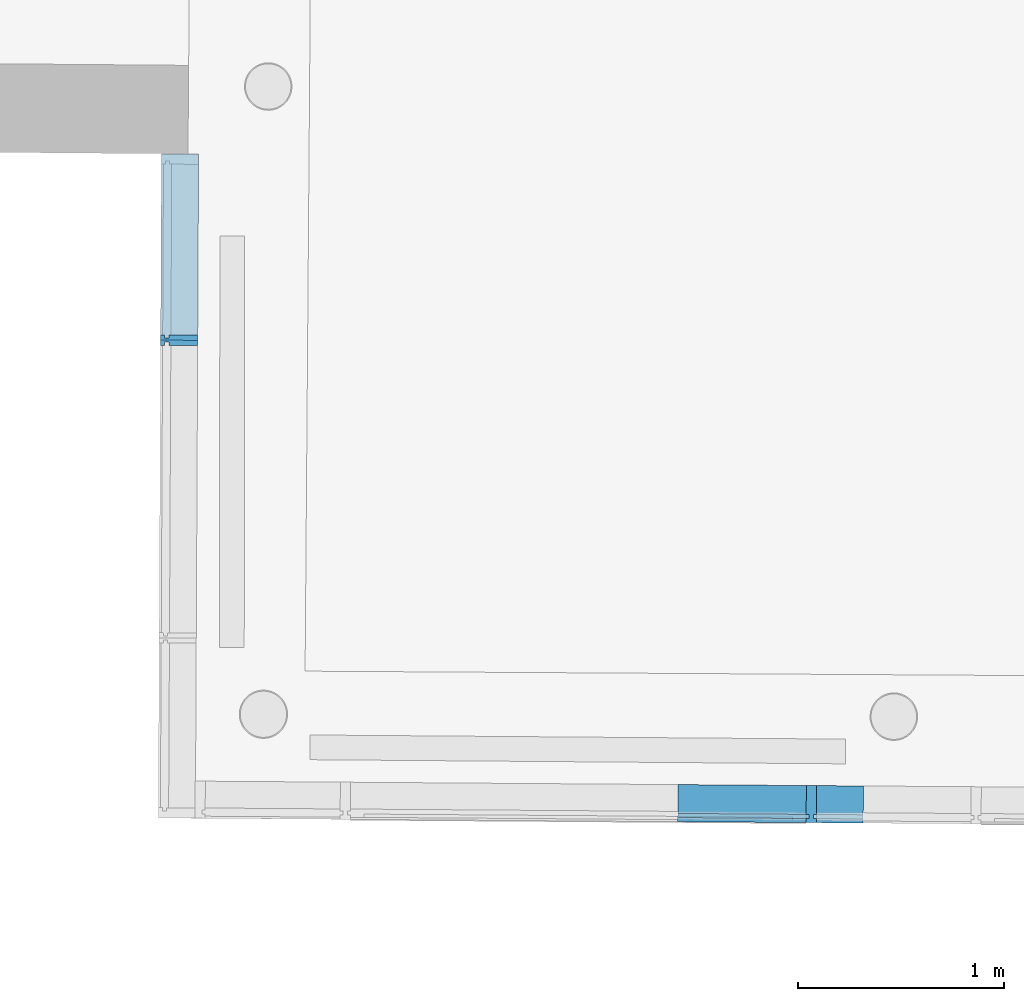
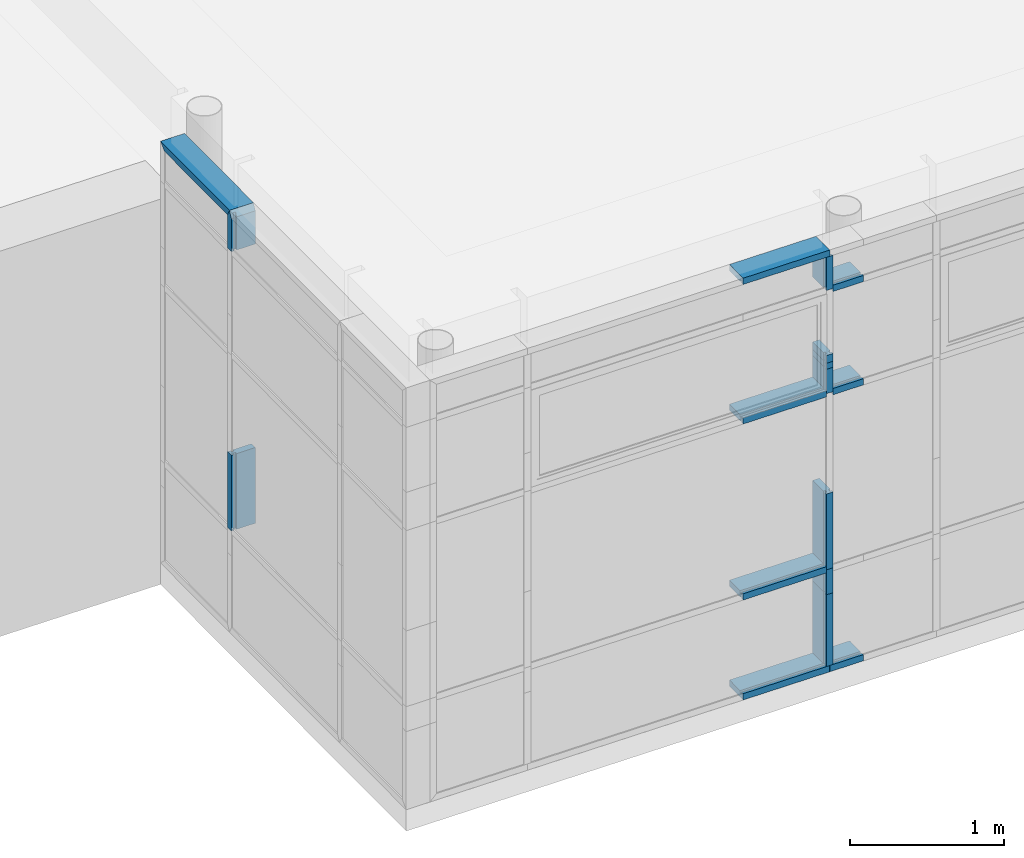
# One storey, part 171 of 196: 17 building element parts, 2 elements without a shape of their own.
"""IFC2X3 building model written with IfcOpenShell, lengths in metres."""

from ifc_helpers import new_model, entity, si_unit, converted_unit, derived_unit, money_unit, direction, frame, origin_with_axes, place, context, subcontext, project, spatial, faceted_brep, material, type_object, element, aggregate, save


model = new_model("IFC2X3")

# Units and contexts
model_context = context("Model", 3, precision=1e-05, world=origin_with_axes(), true_north=direction((0.0, 1.0)))
body_context = subcontext(model_context, "Body", "Model", "MODEL_VIEW")
ifc_project = project(units=[si_unit("LENGTHUNIT", "METRE"), si_unit("AREAUNIT", "SQUARE_METRE"), si_unit("VOLUMEUNIT", "CUBIC_METRE"), converted_unit("PLANEANGLEUNIT", "DEGREE", entity("IfcPlaneAngleMeasure", 0.0174532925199), si_unit("PLANEANGLEUNIT", "RADIAN"), dimensions=[0, 0, 0, 0, 0, 0, 0]), money_unit("EUR"), converted_unit("TIMEUNIT", "Year", entity("IfcTimeMeasure", 31556926.0), si_unit("TIMEUNIT", "SECOND"), dimensions=[0, 0, 1, 0, 0, 0, 0]), si_unit("MASSUNIT", "GRAM", prefix="KILO"), si_unit("THERMODYNAMICTEMPERATUREUNIT", "DEGREE_CELSIUS"), si_unit("LUMINOUSINTENSITYUNIT", "LUMEN"), si_unit("ENERGYUNIT", "JOULE", prefix="MEGA"), derived_unit("THERMALCONDUCTANCEUNIT", [(si_unit("POWERUNIT", "WATT"), 1), (si_unit("LENGTHUNIT", "METRE"), -1), (si_unit("THERMODYNAMICTEMPERATUREUNIT", "KELVIN"), -1)]), derived_unit("SPECIFICHEATCAPACITYUNIT", [(si_unit("ENERGYUNIT", "JOULE"), 1), (si_unit("MASSUNIT", "GRAM", prefix="KILO"), -1), (si_unit("THERMODYNAMICTEMPERATUREUNIT", "KELVIN"), -1)]), derived_unit("MASSDENSITYUNIT", [(si_unit("MASSUNIT", "GRAM", prefix="KILO"), 1), (si_unit("VOLUMEUNIT", "CUBIC_METRE"), -1)])], contexts=[model_context])

# Site, building, storey
site_placement = place(None, origin_with_axes())
site = spatial("IfcSite", under=ifc_project, at=site_placement, Name="Gelände", CompositionType="ELEMENT")
building_placement = place(site_placement, origin_with_axes())
building = spatial("IfcBuilding", under=site, at=building_placement, Name="Gebäude", CompositionType="ELEMENT")
storey_placement = place(building_placement, frame((0.0, 0.0, -3.0), z_axis=(0.0, 0.0, 1.0), x_axis=(1.0, 0.0, 0.0)))
storey = spatial("IfcBuildingStorey", under=building, at=storey_placement, Name="KELLERGESCHOSS", CompositionType="ELEMENT", Elevation=-3.0)

# Proxy, building element parts
building_element_proxy_type = type_object("IfcBuildingElementProxyType", Name="Fassadentyp", PredefinedType="NOTDEFINED")
proxy_1_placement = place(storey_placement, frame((2.54090824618, 35.7894672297, 0.610000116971), z_axis=(0.0, 0.0, 1.0), x_axis=(1.0, 0.0, 0.0)))
proxy_1 = element("IfcBuildingElementProxy", 1, at=proxy_1_placement, inside=storey, type_object=building_element_proxy_type, Name="Fassade-002")
ifc_material = material(Name="53_Metall, Aluminium")
building_element_part_1_placement = place(proxy_1_placement, origin_with_axes())
building_element_part_1 = element("IfcBuildingElementPart", 2, at=building_element_part_1_placement, material=ifc_material, Name="53_Metall, Aluminium", context=body_context, shape_type="Brep", body=[
    faceted_brep([(-0.110643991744, 0.0108020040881, 2.20648768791), (-0.110643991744, 0.0108020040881, 2.19148768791), (-0.109629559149, 0.150798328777, 2.19148768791), (-0.109629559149, 0.150798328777, 2.24148768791), (-0.110643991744, 0.0108020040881, 2.24148768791), (-0.110643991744, 0.0108020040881, 2.22648768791), (-0.110788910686, -0.00919747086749, 2.22648768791), (-0.110788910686, -0.00919747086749, 2.24148768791), (-0.110933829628, -0.0291969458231, 2.24148768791), (-0.110933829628, -0.0291969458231, 2.19148768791), (-0.110788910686, -0.00919747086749, 2.19148768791), (-0.110788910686, -0.00919747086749, 2.20648768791), (-0.337586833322, 0.0124464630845, 2.20648768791), (-0.337586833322, 0.0124464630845, 2.19148768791), (-0.336572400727, 0.152442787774, 2.19148768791), (-0.336572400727, 0.152442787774, 2.24148768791), (-0.337586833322, 0.0124464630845, 2.24148768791), (-0.337586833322, 0.0124464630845, 2.22648768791), (-0.337731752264, -0.00755301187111, 2.22648768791), (-0.337731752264, -0.00755301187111, 2.24148768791), (-0.337876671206, -0.0275524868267, 2.24148768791), (-0.337876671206, -0.0275524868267, 2.19148768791), (-0.337731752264, -0.00755301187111, 2.19148768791), (-0.337731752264, -0.00755301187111, 2.20648768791)], [[[0, 1, 2, 3, 4, 5, 6, 7, 8, 9, 10, 11]], [[1, 0, 12, 13]], [[1, 13, 14, 2]], [[2, 14, 15, 3]], [[4, 3, 15, 16]], [[4, 16, 17, 5]], [[5, 17, 18, 6]], [[7, 6, 18, 19]], [[19, 20, 8, 7]], [[8, 20, 21, 9]], [[22, 10, 9, 21]], [[11, 10, 22, 23]], [[0, 11, 23, 12]], [[23, 22, 21, 20, 19, 18, 17, 16, 15, 14, 13, 12]]]),
])
building_element_part_2_placement = place(proxy_1_placement, origin_with_axes())
building_element_part_2 = element("IfcBuildingElementPart", 3, at=building_element_part_2_placement, material=ifc_material, Name="53_Metall, Aluminium", context=body_context, shape_type="Brep", body=[
    faceted_brep([(-0.11064399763, 0.0108020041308, 0.03499984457), (-0.110788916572, -0.00919747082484, 0.03499984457), (-0.110788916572, -0.00919747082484, 0.04999984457), (-0.110933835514, -0.0291969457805, 0.04999984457), (-0.110933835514, -0.0291969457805, -1.55430020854e-07), (-0.109629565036, 0.15079832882, -1.55430020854e-07), (-0.109629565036, 0.15079832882, 0.04999984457), (-0.11064399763, 0.0108020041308, 0.04999984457), (-0.362586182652, 0.0126276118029, 0.03499984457), (-0.362731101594, -0.00737186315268, 0.03499984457), (-0.362731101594, -0.00737186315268, 0.04999984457), (-0.362876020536, -0.0273713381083, 0.04999984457), (-0.362876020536, -0.0273713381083, -1.55430020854e-07), (-0.361571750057, 0.152623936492, -1.55430020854e-07), (-0.361571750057, 0.152623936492, 0.04999984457), (-0.362586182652, 0.0126276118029, 0.04999984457)], [[[0, 1, 2, 3, 4, 5, 6, 7]], [[1, 0, 8, 9]], [[10, 2, 1, 9]], [[2, 10, 11, 3]], [[12, 4, 3, 11]], [[13, 5, 4, 12]], [[14, 6, 5, 13]], [[15, 7, 6, 14]], [[0, 7, 15, 8]], [[8, 15, 14, 13, 12, 11, 10, 9]]]),
])
building_element_part_3_placement = place(proxy_1_placement, origin_with_axes())
building_element_part_3 = element("IfcBuildingElementPart", 4, at=building_element_part_3_placement, material=ifc_material, Name="53_Metall, Aluminium", context=body_context, shape_type="Brep", body=[
    faceted_brep([(-0.362586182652, 0.0126276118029, 0.03499984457), (-0.362731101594, -0.00737186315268, 0.03499984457), (-0.362731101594, -0.00737186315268, 0.04999984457), (-0.362876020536, -0.0273713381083, 0.04999984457), (-0.362876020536, -0.0273713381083, -1.55430020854e-07), (-0.361571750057, 0.152623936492, -1.55430020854e-07), (-0.361571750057, 0.152623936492, 0.04999984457), (-0.362586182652, 0.0126276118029, 0.04999984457), (-1.01062037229, 0.0173233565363, 0.03499984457), (-1.01076529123, -0.0026761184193, 0.03499984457), (-1.01076529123, -0.0026761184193, 0.04999984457), (-1.01091021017, -0.0226755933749, 0.04999984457), (-1.01091021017, -0.0226755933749, -1.55430020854e-07), (-1.0096059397, 0.157319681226, -1.55430020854e-07), (-1.0096059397, 0.157319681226, 0.04999984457), (-1.01062037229, 0.0173233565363, 0.04999984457)], [[[0, 1, 2, 3, 4, 5, 6, 7]], [[1, 0, 8, 9]], [[10, 2, 1, 9]], [[2, 10, 11, 3]], [[12, 4, 3, 11]], [[13, 5, 4, 12]], [[14, 6, 5, 13]], [[15, 7, 6, 14]], [[0, 7, 15, 8]], [[8, 15, 14, 13, 12, 11, 10, 9]]]),
])
building_element_part_4_placement = place(proxy_1_placement, origin_with_axes())
building_element_part_4 = element("IfcBuildingElementPart", 5, at=building_element_part_4_placement, material=ifc_material, Name="53_Metall, Aluminium", context=body_context, shape_type="Brep", body=[
    faceted_brep([(-0.352586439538, 0.0125551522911, 2.41016314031), (-0.337586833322, 0.0124464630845, 2.41016314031), (-0.336572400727, 0.152442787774, 2.41016314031), (-0.386571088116, 0.152805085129, 2.41016314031), (-0.387585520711, 0.0128087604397, 2.41016314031), (-0.372585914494, 0.0127000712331, 2.41016314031), (-0.372730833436, -0.00729940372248, 2.41016314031), (-0.387730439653, -0.00719071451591, 2.41016314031), (-0.387875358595, -0.0271901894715, 2.41016314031), (-0.337876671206, -0.0275524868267, 2.41016314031), (-0.337731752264, -0.00755301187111, 2.41016314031), (-0.35273135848, -0.00744432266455, 2.41016314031), (-0.352586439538, 0.0125551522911, 2.21648768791), (-0.337586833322, 0.0124464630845, 2.21648768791), (-0.336572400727, 0.152442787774, 2.21648768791), (-0.386571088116, 0.152805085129, 2.21648768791), (-0.387585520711, 0.0128087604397, 2.21648768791), (-0.372585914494, 0.0127000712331, 2.21648768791), (-0.372730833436, -0.00729940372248, 2.21648768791), (-0.387730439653, -0.00719071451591, 2.21648768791), (-0.387875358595, -0.0271901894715, 2.21648768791), (-0.337876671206, -0.0275524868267, 2.21648768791), (-0.337731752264, -0.00755301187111, 2.21648768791), (-0.35273135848, -0.00744432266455, 2.21648768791)], [[[0, 1, 2, 3, 4, 5, 6, 7, 8, 9, 10, 11]], [[1, 0, 12, 13]], [[1, 13, 14, 2]], [[3, 2, 14, 15]], [[4, 3, 15, 16]], [[4, 16, 17, 5]], [[5, 17, 18, 6]], [[7, 6, 18, 19]], [[19, 20, 8, 7]], [[9, 8, 20, 21]], [[22, 10, 9, 21]], [[11, 10, 22, 23]], [[0, 11, 23, 12]], [[23, 22, 21, 20, 19, 18, 17, 16, 15, 14, 13, 12]]]),
])
building_element_part_5_placement = place(proxy_1_placement, origin_with_axes())
building_element_part_5 = element("IfcBuildingElementPart", 6, at=building_element_part_5_placement, material=ifc_material, Name="53_Metall, Aluminium", context=body_context, shape_type="Brep", body=[
    faceted_brep([(-0.352586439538, 0.0125551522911, 2.4576432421), (-0.337586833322, 0.0124464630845, 2.4576432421), (-0.336572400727, 0.152442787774, 2.4576432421), (-0.386571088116, 0.152805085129, 2.4576432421), (-0.387585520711, 0.0128087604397, 2.4576432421), (-0.372585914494, 0.0127000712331, 2.4576432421), (-0.372730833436, -0.00729940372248, 2.4576432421), (-0.387730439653, -0.00719071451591, 2.4576432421), (-0.387875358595, -0.0271901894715, 2.4576432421), (-0.337876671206, -0.0275524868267, 2.4576432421), (-0.337731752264, -0.00755301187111, 2.4576432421), (-0.35273135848, -0.00744432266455, 2.4576432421), (-0.352586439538, 0.0125551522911, 2.41016314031), (-0.337586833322, 0.0124464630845, 2.41016314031), (-0.336572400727, 0.152442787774, 2.41016314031), (-0.386571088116, 0.152805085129, 2.41016314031), (-0.387585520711, 0.0128087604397, 2.41016314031), (-0.372585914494, 0.0127000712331, 2.41016314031), (-0.372730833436, -0.00729940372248, 2.41016314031), (-0.387730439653, -0.00719071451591, 2.41016314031), (-0.387875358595, -0.0271901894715, 2.41016314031), (-0.337876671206, -0.0275524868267, 2.41016314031), (-0.337731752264, -0.00755301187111, 2.41016314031), (-0.35273135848, -0.00744432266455, 2.41016314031)], [[[0, 1, 2, 3, 4, 5, 6, 7, 8, 9, 10, 11]], [[1, 0, 12, 13]], [[1, 13, 14, 2]], [[3, 2, 14, 15]], [[4, 3, 15, 16]], [[4, 16, 17, 5]], [[5, 17, 18, 6]], [[7, 6, 18, 19]], [[19, 20, 8, 7]], [[9, 8, 20, 21]], [[22, 10, 9, 21]], [[11, 10, 22, 23]], [[0, 11, 23, 12]], [[23, 22, 21, 20, 19, 18, 17, 16, 15, 14, 13, 12]]]),
])
building_element_part_6_placement = place(proxy_1_placement, origin_with_axes())
building_element_part_6 = element("IfcBuildingElementPart", 7, at=building_element_part_6_placement, material=ifc_material, Name="53_Metall, Aluminium", context=body_context, shape_type="Brep", body=[
    faceted_brep([(-0.352586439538, 0.0125551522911, 2.51999989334), (-0.337586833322, 0.0124464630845, 2.51999989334), (-0.336572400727, 0.152442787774, 2.51999989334), (-0.386571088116, 0.152805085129, 2.51999989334), (-0.387585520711, 0.0128087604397, 2.51999989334), (-0.372585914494, 0.0127000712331, 2.51999989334), (-0.372730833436, -0.00729940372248, 2.51999989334), (-0.387730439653, -0.00719071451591, 2.51999989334), (-0.387875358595, -0.0271901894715, 2.51999989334), (-0.337876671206, -0.0275524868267, 2.51999989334), (-0.337731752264, -0.00755301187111, 2.51999989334), (-0.35273135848, -0.00744432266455, 2.51999989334), (-0.352586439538, 0.0125551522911, 2.45764323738), (-0.337586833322, 0.0124464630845, 2.45764323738), (-0.336572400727, 0.152442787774, 2.45764323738), (-0.386571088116, 0.152805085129, 2.45764323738), (-0.387585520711, 0.0128087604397, 2.45764323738), (-0.372585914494, 0.0127000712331, 2.45764323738), (-0.372730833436, -0.00729940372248, 2.45764323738), (-0.387730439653, -0.00719071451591, 2.45764323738), (-0.387875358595, -0.0271901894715, 2.45764323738), (-0.337876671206, -0.0275524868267, 2.45764323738), (-0.337731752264, -0.00755301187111, 2.45764323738), (-0.35273135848, -0.00744432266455, 2.45764323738)], [[[0, 1, 2, 3, 4, 5, 6, 7, 8, 9, 10, 11]], [[1, 0, 12, 13]], [[1, 13, 14, 2]], [[3, 2, 14, 15]], [[4, 3, 15, 16]], [[4, 16, 17, 5]], [[5, 17, 18, 6]], [[7, 6, 18, 19]], [[19, 20, 8, 7]], [[9, 8, 20, 21]], [[22, 10, 9, 21]], [[11, 10, 22, 23]], [[0, 11, 23, 12]], [[23, 22, 21, 20, 19, 18, 17, 16, 15, 14, 13, 12]]]),
])
building_element_part_7_placement = place(proxy_1_placement, origin_with_axes())
building_element_part_7 = element("IfcBuildingElementPart", 8, at=building_element_part_7_placement, material=ifc_material, Name="53_Metall, Aluminium", context=body_context, shape_type="Brep", body=[
    faceted_brep([(-0.352586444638, 0.012555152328, 3.2999999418), (-0.337586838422, 0.0124464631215, 3.2999999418), (-0.336572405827, 0.152442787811, 3.2999999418), (-0.386571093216, 0.152805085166, 3.2999999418), (-0.387585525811, 0.0128087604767, 3.2999999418), (-0.372585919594, 0.0127000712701, 3.2999999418), (-0.372730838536, -0.00729940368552, 3.2999999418), (-0.387730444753, -0.00719071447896, 3.2999999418), (-0.387875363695, -0.0271901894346, 3.2999999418), (-0.337876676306, -0.0275524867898, 3.2999999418), (-0.337731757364, -0.00755301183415, 3.2999999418), (-0.35273136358, -0.0074443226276, 3.2999999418), (-0.352586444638, 0.012555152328, 3.03649576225), (-0.337586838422, 0.0124464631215, 3.03649576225), (-0.336572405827, 0.152442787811, 3.03649576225), (-0.386571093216, 0.152805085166, 3.03649576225), (-0.387585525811, 0.0128087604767, 3.03649576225), (-0.372585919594, 0.0127000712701, 3.03649576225), (-0.372730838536, -0.00729940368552, 3.03649576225), (-0.387730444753, -0.00719071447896, 3.03649576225), (-0.387875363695, -0.0271901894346, 3.03649576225), (-0.337876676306, -0.0275524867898, 3.03649576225), (-0.337731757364, -0.00755301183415, 3.03649576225), (-0.35273136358, -0.0074443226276, 3.03649576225)], [[[0, 1, 2, 3, 4, 5, 6, 7, 8, 9, 10, 11]], [[1, 0, 12, 13]], [[1, 13, 14, 2]], [[3, 2, 14, 15]], [[4, 3, 15, 16]], [[4, 16, 17, 5]], [[5, 17, 18, 6]], [[7, 6, 18, 19]], [[19, 20, 8, 7]], [[9, 8, 20, 21]], [[22, 10, 9, 21]], [[11, 10, 22, 23]], [[0, 11, 23, 12]], [[23, 22, 21, 20, 19, 18, 17, 16, 15, 14, 13, 12]]]),
])
building_element_part_8_placement = place(proxy_1_placement, origin_with_axes())
building_element_part_8 = element("IfcBuildingElementPart", 9, at=building_element_part_8_placement, material=ifc_material, Name="53_Metall, Aluminium", context=body_context, shape_type="Brep", body=[
    faceted_brep([(-0.352586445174, 0.0125551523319, 0.619999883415), (-0.337586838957, 0.0124464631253, 0.619999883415), (-0.336572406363, 0.152442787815, 0.619999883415), (-0.386571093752, 0.15280508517, 0.619999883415), (-0.387585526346, 0.0128087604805, 0.619999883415), (-0.37258592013, 0.012700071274, 0.619999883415), (-0.372730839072, -0.00729940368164, 0.619999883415), (-0.387730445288, -0.00719071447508, 0.619999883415), (-0.38787536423, -0.0271901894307, 0.619999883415), (-0.337876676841, -0.0275524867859, 0.619999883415), (-0.337731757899, -0.00755301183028, 0.619999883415), (-0.352731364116, -0.00744432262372, 0.619999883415), (-0.352586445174, 0.0125551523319, 0.04999984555), (-0.337586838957, 0.0124464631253, 0.04999984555), (-0.336572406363, 0.152442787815, 0.049999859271), (-0.386571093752, 0.15280508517, 0.049999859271), (-0.387585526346, 0.0128087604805, 0.04999984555), (-0.37258592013, 0.012700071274, 0.04999984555), (-0.372730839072, -0.00729940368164, 0.0499998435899), (-0.387730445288, -0.00719071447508, 0.0499998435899), (-0.38787536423, -0.0271901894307, 0.0499998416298), (-0.337876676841, -0.0275524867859, 0.0499998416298), (-0.337731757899, -0.00755301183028, 0.0499998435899), (-0.352731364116, -0.00744432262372, 0.0499998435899)], [[[0, 1, 2, 3, 4, 5, 6, 7, 8, 9, 10, 11]], [[1, 0, 12, 13]], [[1, 13, 14, 2]], [[2, 14, 15, 3]], [[4, 3, 15, 16]], [[4, 16, 17, 5]], [[5, 17, 18, 6]], [[7, 6, 18, 19]], [[19, 20, 8, 7]], [[8, 20, 21, 9]], [[22, 10, 9, 21]], [[11, 10, 22, 23]], [[0, 11, 23, 12]], [[23, 22, 21, 20, 19, 18, 17, 16, 15, 14, 13, 12]]]),
])
building_element_part_9_placement = place(proxy_1_placement, origin_with_axes())
building_element_part_9 = element("IfcBuildingElementPart", 10, at=building_element_part_9_placement, material=ifc_material, Name="53_Metall, Aluminium", context=body_context, shape_type="Brep", body=[
    faceted_brep([(-0.110643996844, 0.0108020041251, 3.02649576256), (-0.110643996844, 0.0108020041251, 3.01149576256), (-0.109629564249, 0.150798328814, 3.01149576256), (-0.109629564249, 0.150798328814, 3.06149576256), (-0.110643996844, 0.0108020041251, 3.06149576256), (-0.110643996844, 0.0108020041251, 3.04649576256), (-0.110788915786, -0.00919747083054, 3.04649576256), (-0.110788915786, -0.00919747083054, 3.06149576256), (-0.110933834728, -0.0291969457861, 3.06149576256), (-0.110933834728, -0.0291969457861, 3.01149576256), (-0.110788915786, -0.00919747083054, 3.01149576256), (-0.110788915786, -0.00919747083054, 3.02649576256), (-0.337586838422, 0.0124464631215, 3.02649576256), (-0.337586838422, 0.0124464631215, 3.01149576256), (-0.336572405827, 0.152442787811, 3.01149576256), (-0.336572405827, 0.152442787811, 3.06149576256), (-0.337586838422, 0.0124464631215, 3.06149576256), (-0.337586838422, 0.0124464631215, 3.04649576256), (-0.337731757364, -0.00755301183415, 3.04649576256), (-0.337731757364, -0.00755301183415, 3.06149576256), (-0.337876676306, -0.0275524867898, 3.06149576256), (-0.337876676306, -0.0275524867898, 3.01149576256), (-0.337731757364, -0.00755301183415, 3.01149576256), (-0.337731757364, -0.00755301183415, 3.02649576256)], [[[0, 1, 2, 3, 4, 5, 6, 7, 8, 9, 10, 11]], [[1, 0, 12, 13]], [[1, 13, 14, 2]], [[2, 14, 15, 3]], [[4, 3, 15, 16]], [[4, 16, 17, 5]], [[5, 17, 18, 6]], [[7, 6, 18, 19]], [[19, 20, 8, 7]], [[8, 20, 21, 9]], [[22, 10, 9, 21]], [[11, 10, 22, 23]], [[0, 11, 23, 12]], [[23, 22, 21, 20, 19, 18, 17, 16, 15, 14, 13, 12]]]),
])
building_element_part_10_placement = place(proxy_1_placement, origin_with_axes())
building_element_part_10 = element("IfcBuildingElementPart", 11, at=building_element_part_10_placement, material=ifc_material, Name="53_Metall, Aluminium", context=body_context, shape_type="Brep", body=[
    faceted_brep([(-0.362586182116, 0.0126276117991, 3.31499994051), (-0.362586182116, 0.0126276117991, 3.29999994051), (-0.361571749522, 0.152623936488, 3.29999994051), (-0.361571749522, 0.152623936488, 3.34999994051), (-0.36287602, -0.0273713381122, 3.34999994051), (-0.36287602, -0.0273713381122, 3.29999994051), (-0.362731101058, -0.00737186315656, 3.29999994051), (-0.362731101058, -0.00737186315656, 3.31499994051), (-1.01062037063, 0.0173233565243, 3.31499994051), (-1.01062037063, 0.0173233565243, 3.29999994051), (-1.00960593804, 0.157319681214, 3.29999994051), (-1.00960593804, 0.157319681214, 3.34999994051), (-1.01091020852, -0.0226755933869, 3.34999994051), (-1.01091020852, -0.0226755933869, 3.29999994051), (-1.01076528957, -0.00267611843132, 3.29999994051), (-1.01076528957, -0.00267611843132, 3.31499994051)], [[[0, 1, 2, 3, 4, 5, 6, 7]], [[0, 8, 9, 1]], [[9, 10, 2, 1]], [[10, 11, 3, 2]], [[11, 12, 4, 3]], [[12, 13, 5, 4]], [[6, 5, 13, 14]], [[14, 15, 7, 6]], [[7, 15, 8, 0]], [[8, 15, 14, 13, 12, 11, 10, 9]]]),
])
building_element_part_11_placement = place(proxy_1_placement, origin_with_axes())
building_element_part_11 = element("IfcBuildingElementPart", 12, at=building_element_part_11_placement, material=ifc_material, Name="53_Metall, Aluminium", context=body_context, shape_type="Brep", body=[
    faceted_brep([(-0.352586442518, 0.0125551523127, 0.818463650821), (-0.337586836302, 0.0124464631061, 0.818463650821), (-0.336572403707, 0.152442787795, 0.818463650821), (-0.386571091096, 0.152805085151, 0.818463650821), (-0.387585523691, 0.0128087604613, 0.818463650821), (-0.372585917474, 0.0127000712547, 0.818463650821), (-0.372730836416, -0.00729940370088, 0.818463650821), (-0.387730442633, -0.00719071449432, 0.818463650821), (-0.387875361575, -0.0271901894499, 0.818463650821), (-0.337876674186, -0.0275524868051, 0.818463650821), (-0.337731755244, -0.00755301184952, 0.818463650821), (-0.35273136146, -0.00744432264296, 0.818463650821), (-0.352586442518, 0.0125551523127, 0.619999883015), (-0.337586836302, 0.0124464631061, 0.619999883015), (-0.336572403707, 0.152442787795, 0.619999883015), (-0.386571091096, 0.152805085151, 0.619999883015), (-0.387585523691, 0.0128087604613, 0.619999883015), (-0.372585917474, 0.0127000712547, 0.619999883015), (-0.372730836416, -0.00729940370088, 0.619999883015), (-0.387730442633, -0.00719071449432, 0.619999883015), (-0.387875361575, -0.0271901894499, 0.619999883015), (-0.337876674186, -0.0275524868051, 0.619999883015), (-0.337731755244, -0.00755301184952, 0.619999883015), (-0.35273136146, -0.00744432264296, 0.619999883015)], [[[0, 1, 2, 3, 4, 5, 6, 7, 8, 9, 10, 11]], [[1, 0, 12, 13]], [[1, 13, 14, 2]], [[3, 2, 14, 15]], [[4, 3, 15, 16]], [[4, 16, 17, 5]], [[5, 17, 18, 6]], [[7, 6, 18, 19]], [[19, 20, 8, 7]], [[9, 8, 20, 21]], [[22, 10, 9, 21]], [[11, 10, 22, 23]], [[0, 11, 23, 12]], [[23, 22, 21, 20, 19, 18, 17, 16, 15, 14, 13, 12]]]),
])
building_element_part_12_placement = place(proxy_1_placement, origin_with_axes())
building_element_part_12 = element("IfcBuildingElementPart", 13, at=building_element_part_12_placement, material=ifc_material, Name="53_Metall, Aluminium", context=body_context, shape_type="Brep", body=[
    faceted_brep([(-0.352586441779, 0.0125551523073, 1.41999988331), (-0.337586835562, 0.0124464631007, 1.41999988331), (-0.336572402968, 0.15244278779, 1.41999988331), (-0.386571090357, 0.152805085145, 1.41999988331), (-0.387585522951, 0.0128087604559, 1.41999988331), (-0.372585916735, 0.0127000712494, 1.41999988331), (-0.372730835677, -0.00729940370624, 1.41999988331), (-0.387730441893, -0.00719071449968, 1.41999988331), (-0.387875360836, -0.0271901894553, 1.41999988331), (-0.337876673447, -0.0275524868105, 1.41999988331), (-0.337731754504, -0.00755301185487, 1.41999988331), (-0.352731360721, -0.00744432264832, 1.41999988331), (-0.352586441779, 0.0125551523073, 0.818463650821), (-0.337586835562, 0.0124464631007, 0.818463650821), (-0.336572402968, 0.15244278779, 0.818463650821), (-0.386571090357, 0.152805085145, 0.818463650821), (-0.387585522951, 0.0128087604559, 0.818463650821), (-0.372585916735, 0.0127000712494, 0.818463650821), (-0.372730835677, -0.00729940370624, 0.818463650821), (-0.387730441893, -0.00719071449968, 0.818463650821), (-0.387875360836, -0.0271901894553, 0.818463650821), (-0.337876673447, -0.0275524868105, 0.818463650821), (-0.337731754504, -0.00755301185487, 0.818463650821), (-0.352731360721, -0.00744432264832, 0.818463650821)], [[[0, 1, 2, 3, 4, 5, 6, 7, 8, 9, 10, 11]], [[1, 0, 12, 13]], [[1, 13, 14, 2]], [[3, 2, 14, 15]], [[4, 3, 15, 16]], [[4, 16, 17, 5]], [[5, 17, 18, 6]], [[7, 6, 18, 19]], [[19, 20, 8, 7]], [[9, 8, 20, 21]], [[22, 10, 9, 21]], [[11, 10, 22, 23]], [[0, 11, 23, 12]], [[23, 22, 21, 20, 19, 18, 17, 16, 15, 14, 13, 12]]]),
])
building_element_part_13_placement = place(proxy_1_placement, origin_with_axes())
building_element_part_13 = element("IfcBuildingElementPart", 14, at=building_element_part_13_placement, material=ifc_material, Name="53_Metall, Aluminium", context=body_context, shape_type="Brep", body=[
    faceted_brep([(-0.387585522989, 0.0128087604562, 0.808463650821), (-0.387585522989, 0.0128087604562, 0.793463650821), (-0.386571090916, 0.152805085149, 0.793463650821), (-0.386571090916, 0.152805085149, 0.843463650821), (-0.387585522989, 0.0128087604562, 0.843463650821), (-0.387585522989, 0.0128087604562, 0.828463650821), (-0.387730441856, -0.00719071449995, 0.828463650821), (-0.387730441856, -0.00719071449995, 0.843463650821), (-0.387875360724, -0.0271901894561, 0.843463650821), (-0.387875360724, -0.0271901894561, 0.793463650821), (-0.387730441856, -0.00719071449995, 0.793463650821), (-0.387730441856, -0.00719071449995, 0.808463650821), (-1.0106203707, 0.0173233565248, 0.808463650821), (-1.0106203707, 0.0173233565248, 0.793463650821), (-1.00960593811, 0.157319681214, 0.793463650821), (-1.00960593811, 0.157319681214, 0.843463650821), (-1.0106203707, 0.0173233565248, 0.843463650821), (-1.0106203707, 0.0173233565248, 0.828463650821), (-1.01076528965, -0.00267611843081, 0.828463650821), (-1.01076528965, -0.00267611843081, 0.843463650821), (-1.01091020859, -0.0226755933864, 0.843463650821), (-1.01091020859, -0.0226755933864, 0.793463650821), (-1.01076528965, -0.00267611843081, 0.793463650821), (-1.01076528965, -0.00267611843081, 0.808463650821)], [[[0, 1, 2, 3, 4, 5, 6, 7, 8, 9, 10, 11]], [[1, 0, 12, 13]], [[1, 13, 14, 2]], [[3, 2, 14, 15]], [[4, 3, 15, 16]], [[4, 16, 17, 5]], [[5, 17, 18, 6]], [[7, 6, 18, 19]], [[19, 20, 8, 7]], [[9, 8, 20, 21]], [[22, 10, 9, 21]], [[11, 10, 22, 23]], [[0, 11, 23, 12]], [[23, 22, 21, 20, 19, 18, 17, 16, 15, 14, 13, 12]]]),
])
building_element_part_14_placement = place(proxy_1_placement, origin_with_axes())
building_element_part_14 = element("IfcBuildingElementPart", 15, at=building_element_part_14_placement, material=ifc_material, Name="53_Metall, Aluminium", context=body_context, shape_type="Brep", body=[
    faceted_brep([(-0.387585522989, 0.0128087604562, 2.20648768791), (-0.387585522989, 0.0128087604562, 2.19148768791), (-0.386571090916, 0.152805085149, 2.19148768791), (-0.386571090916, 0.152805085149, 2.24148768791), (-0.387585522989, 0.0128087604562, 2.24148768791), (-0.387585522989, 0.0128087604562, 2.22648768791), (-0.387730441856, -0.00719071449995, 2.22648768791), (-0.387730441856, -0.00719071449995, 2.24148768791), (-0.387875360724, -0.0271901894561, 2.24148768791), (-0.387875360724, -0.0271901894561, 2.19148768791), (-0.387730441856, -0.00719071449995, 2.19148768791), (-0.387730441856, -0.00719071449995, 2.20648768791), (-1.0106203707, 0.0173233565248, 2.20648768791), (-1.0106203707, 0.0173233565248, 2.19148768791), (-1.00960593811, 0.157319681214, 2.19148768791), (-1.00960593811, 0.157319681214, 2.24148768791), (-1.0106203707, 0.0173233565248, 2.24148768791), (-1.0106203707, 0.0173233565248, 2.22648768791), (-1.01076528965, -0.00267611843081, 2.22648768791), (-1.01076528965, -0.00267611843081, 2.24148768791), (-1.01091020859, -0.0226755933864, 2.24148768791), (-1.01091020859, -0.0226755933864, 2.19148768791), (-1.01076528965, -0.00267611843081, 2.19148768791), (-1.01076528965, -0.00267611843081, 2.20648768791)], [[[0, 1, 2, 3, 4, 5, 6, 7, 8, 9, 10, 11]], [[1, 0, 12, 13]], [[1, 13, 14, 2]], [[3, 2, 14, 15]], [[4, 3, 15, 16]], [[4, 16, 17, 5]], [[5, 17, 18, 6]], [[7, 6, 18, 19]], [[19, 20, 8, 7]], [[9, 8, 20, 21]], [[22, 10, 9, 21]], [[11, 10, 22, 23]], [[0, 11, 23, 12]], [[23, 22, 21, 20, 19, 18, 17, 16, 15, 14, 13, 12]]]),
])
aggregate(proxy_1, [building_element_part_1, building_element_part_2, building_element_part_3, building_element_part_4, building_element_part_5, building_element_part_6, building_element_part_7, building_element_part_8, building_element_part_9, building_element_part_10, building_element_part_11, building_element_part_12, building_element_part_13, building_element_part_14])

proxy_2_placement = place(storey_placement, frame((-0.953000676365, 37.3811147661, 0.610000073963), z_axis=(0.0, 0.0, 1.0), x_axis=(1.0, 0.0, 0.0)))
proxy_2 = element("IfcBuildingElementProxy", 16, at=proxy_2_placement, inside=storey, type_object=building_element_proxy_type, Name="Fassade-002")
building_element_part_15_placement = place(proxy_2_placement, origin_with_axes())
building_element_part_15 = element("IfcBuildingElementPart", 17, at=building_element_part_15_placement, material=ifc_material, Name="53_Metall, Aluminium", context=body_context, shape_type="Brep", body=[
    faceted_brep([(0.0134400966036, 0.712405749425, 1.41999992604), (0.0133676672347, 0.697405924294, 1.41999992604), (0.153366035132, 0.696729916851, 1.41999992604), (0.153607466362, 0.746729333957, 1.41999992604), (0.0136090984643, 0.7474053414, 1.41999992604), (0.0135366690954, 0.732405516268, 1.41999992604), (-0.00646309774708, 0.73250208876, 1.41999992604), (-0.00639066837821, 0.747501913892, 1.41999992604), (-0.0263904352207, 0.747598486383, 1.41999992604), (-0.0266318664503, 0.697599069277, 1.41999992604), (-0.00663209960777, 0.697502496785, 1.41999992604), (-0.0065596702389, 0.712502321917, 1.41999992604), (0.0134400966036, 0.712405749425, 0.818463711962), (0.0133676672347, 0.697405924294, 0.818463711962), (0.153366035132, 0.696729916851, 0.818463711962), (0.153607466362, 0.746729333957, 0.818463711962), (0.0136090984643, 0.7474053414, 0.818463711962), (0.0135366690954, 0.732405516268, 0.818463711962), (-0.00646309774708, 0.73250208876, 0.818463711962), (-0.00639066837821, 0.747501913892, 0.818463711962), (-0.0263904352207, 0.747598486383, 0.818463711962), (-0.0266318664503, 0.697599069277, 0.818463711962), (-0.00663209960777, 0.697502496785, 0.818463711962), (-0.0065596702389, 0.712502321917, 0.818463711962)], [[[0, 1, 2, 3, 4, 5, 6, 7, 8, 9, 10, 11]], [[1, 0, 12, 13]], [[1, 13, 14, 2]], [[3, 2, 14, 15]], [[4, 3, 15, 16]], [[4, 16, 17, 5]], [[5, 17, 18, 6]], [[7, 6, 18, 19]], [[19, 20, 8, 7]], [[9, 8, 20, 21]], [[22, 10, 9, 21]], [[11, 10, 22, 23]], [[0, 11, 23, 12]], [[23, 22, 21, 20, 19, 18, 17, 16, 15, 14, 13, 12]]]),
])
building_element_part_16_placement = place(proxy_2_placement, origin_with_axes())
building_element_part_16 = element("IfcBuildingElementPart", 18, at=building_element_part_16_placement, material=ifc_material, Name="53_Metall, Aluminium", context=body_context, shape_type="Brep", body=[
    faceted_brep([(0.0135728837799, 0.739905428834, 3.31500001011), (0.0136090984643, 0.7474053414, 3.30000001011), (0.153607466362, 0.746729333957, 3.30000001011), (0.153486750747, 0.721729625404, 3.35000001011), (-0.0265111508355, 0.72259877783, 3.35000001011), (-0.0263904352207, 0.747598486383, 3.30000001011), (-0.0063906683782, 0.747501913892, 3.30000001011), (-0.00642688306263, 0.740002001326, 3.31500001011), (0.0176850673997, 1.59152178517, 3.31500001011), (0.0176126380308, 1.57652196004, 3.30000001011), (0.157611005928, 1.5758459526, 3.30000001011), (0.157852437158, 1.6258453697, 3.35000001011), (-0.0221454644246, 1.62671452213, 3.35000001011), (-0.0223868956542, 1.57671510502, 3.30000001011), (-0.00238712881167, 1.57661853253, 3.30000001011), (-0.00231469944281, 1.59161835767, 3.31500001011)], [[[0, 1, 2, 3, 4, 5, 6, 7]], [[0, 8, 9, 1]], [[9, 10, 2, 1]], [[2, 10, 11, 3]], [[3, 11, 12, 4]], [[4, 12, 13, 5]], [[6, 5, 13, 14]], [[14, 15, 7, 6]], [[7, 15, 8, 0]], [[8, 15, 14, 13, 12, 11, 10, 9]]]),
])
building_element_part_17_placement = place(proxy_2_placement, origin_with_axes())
building_element_part_17 = element("IfcBuildingElementPart", 19, at=building_element_part_17_placement, material=ifc_material, Name="53_Metall, Aluminium", context=body_context, shape_type="Brep", body=[
    faceted_brep([(0.0134400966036, 0.712405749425, 3.33000001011), (0.0133676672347, 0.697405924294, 3.30000001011), (0.153366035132, 0.696729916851, 3.30000001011), (0.153486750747, 0.721729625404, 3.35000001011), (-0.0265111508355, 0.72259877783, 3.35000001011), (-0.0266318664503, 0.697599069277, 3.30000001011), (-0.00663209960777, 0.697502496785, 3.30000001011), (-0.0065596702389, 0.712502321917, 3.33000001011), (0.0134400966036, 0.712405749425, 3.03649579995), (0.0133676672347, 0.697405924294, 3.03649579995), (0.153366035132, 0.696729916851, 3.03649579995), (0.153607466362, 0.746729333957, 3.30000001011), (0.153607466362, 0.746729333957, 3.03649579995), (0.0136090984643, 0.7474053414, 3.30000001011), (0.0135366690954, 0.732405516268, 3.33000001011), (-0.00646309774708, 0.73250208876, 3.33000001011), (-0.00639066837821, 0.747501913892, 3.30000001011), (-0.0263904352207, 0.747598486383, 3.30000001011), (-0.0266318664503, 0.697599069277, 3.03649579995), (-0.0263904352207, 0.747598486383, 3.03649579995), (-0.00663209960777, 0.697502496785, 3.03649579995), (-0.0065596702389, 0.712502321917, 3.03649579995), (-0.00639066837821, 0.747501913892, 3.03649579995), (-0.00646309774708, 0.73250208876, 3.03649579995), (0.0135366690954, 0.732405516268, 3.03649579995), (0.0136090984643, 0.7474053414, 3.03649579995)], [[[0, 1, 2, 3, 4, 5, 6, 7]], [[1, 0, 8, 9]], [[1, 9, 10, 2]], [[11, 3, 2, 10, 12]], [[3, 11, 13, 14, 15, 16, 17, 4]], [[18, 5, 4, 17, 19]], [[20, 6, 5, 18]], [[7, 6, 20, 21]], [[0, 7, 21, 8]], [[21, 20, 18, 19, 22, 23, 24, 25, 12, 10, 9, 8]], [[13, 11, 12, 25]], [[13, 25, 24, 14]], [[14, 24, 23, 15]], [[16, 15, 23, 22]], [[22, 19, 17, 16]]]),
])
aggregate(proxy_2, [building_element_part_15, building_element_part_16, building_element_part_17])

save(model, "model.ifc")
